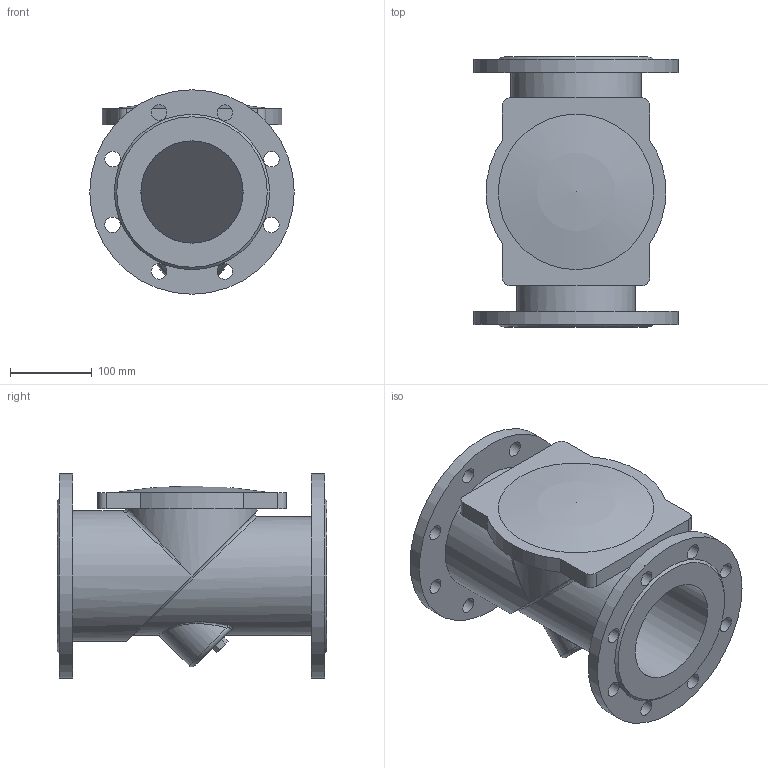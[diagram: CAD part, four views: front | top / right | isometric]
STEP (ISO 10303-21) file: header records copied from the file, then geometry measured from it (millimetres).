
FILE_DESCRIPTION(('STEP AP203'), '1');
FILE_NAME('Êëàïàí îäíîñòâîð÷àòûé îáðàòíûé ôëàíöåâûé 015F.Z DN125 PN10_PN16', '', ('UNSPECIFIED'), ('UNSPECIFIED'), 'ASCON STEP Converter 1.6', 'ASCON Math Kernel', '');
FILE_SCHEMA(('CONFIG_CONTROL_DESIGN'));
Length unit declared in the file: millimetre
Bounding box: 250 x 330 x 250 mm (x, y, z)
Volume: 4052310.2 mm3; surface area: 578295 mm2
Topology: 1 solids, 2 shells, 73 faces, 166 edges, 106 vertices
Faces by surface type: cylinder 33, plane 27, bspline 9, cone 2, torus 1, sphere 1
Full cylindrical faces by diameter (mm): 19 x16, 125 x2, 140 x1, 145 x1, 160 x1, 250 x2
Entity records: 4157 total; most frequent: CARTESIAN_POINT 1986, DIRECTION 302, ORIENTED_EDGE 272, EDGE_LOOP 143, EDGE_CURVE 136, AXIS2_PLACEMENT_3D 130, VERTEX_POINT 105, FACE_BOUND 91
